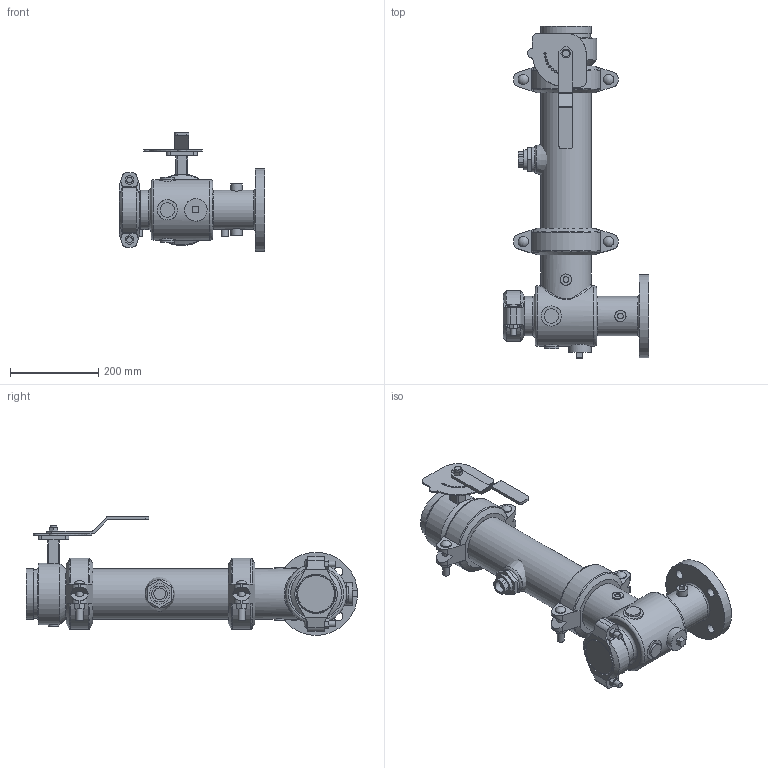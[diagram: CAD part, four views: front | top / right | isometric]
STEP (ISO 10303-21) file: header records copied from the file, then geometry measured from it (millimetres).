
FILE_DESCRIPTION(/* description */ ('VIC SVI PUMP DROP HORZ S/391 (OGSxFLG)','CAx-IF Rec.Pracs.---Representation and Presentation of Product Manufacturing Information (PMI)---4.0---2014-10-13'),/* implementation_level */ '2;1');
FILE_NAME(/* name */ 'C:\Users\kkamble\AppData\Roaming\Autodesk\ApplicationPlugins\Back Up\Victaulic_PN10_Series 391 (OGSxFLG)\Victaulic_PN10_Series 391 (OGSxFLG)_04.0x02.5 (76.1) (100x65).stp',/* time_stamp */ '2020-11-26T23:43:32+05:00',/* author */ ('kkamble'),/* organization */ ('Victaulic'),/* preprocessor_version */ 'ST-DEVELOPER v17.2',/* originating_system */ 'Autodesk Inventor 2019',/* authorisation */ '');
FILE_SCHEMA (('AP242_MANAGED_MODEL_BASED_3D_ENGINEERING_MIM_LF { 1 0 10303 442 1 1 4 }'));
Length unit declared in the file: inch
Products named in the file (9): 391-04.0x02.5 (76.1); 731D-04.0x02.5 (76.1); 731D-04.0x02.5 (76.1)_1; 731D-04.0; 07-03.0; PIPE-04.0; 177N-04.0; 761-04.0; 923-04.0x0.75
Assembly tree (9 placements, depth 3):
  391-04.0x02.5 (76.1)
    731D-04.0x02.5 (76.1)
      731D-04.0x02.5 (76.1)_1
      731D-04.0
      07-03.0
    177N-04.0  x2
    PIPE-04.0
    761-04.0
    923-04.0x0.75
Bounding box: 330.2 x 752.09 x 268.99 mm (x, y, z)
Volume: 5632595.8 mm3; surface area: 1039424.1 mm2
Topology: 8 solids, 11 shells, 526 faces, 1366 edges, 921 vertices
Faces by surface type: plane 297, cylinder 189, torus 17, cone 16, sphere 6, bspline 1
Full cylindrical faces by diameter (mm): 4.826 x10, 8.636 x4, 12.7 x4, 13.157 x4, 14.986 x2, 15.875 x4, 21.006 x4, 22.225 x2, 22.86 x1, 23.495 x4, 25.4 x4, 26.67 x1, 33.02 x3, 45.974 x2, 50.8 x1, 55.118 x1, 55.626 x1, 63.5 x1, 65.278 x1, 67.056 x1, 72.898 x1, 82.55 x1, 84.938 x2, 88.9 x6, 96.52 x1, 101.6 x2, 102.26 x2, 110.084 x5, 114.3 x13, 137.16 x1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
Entity records: 15311 total; most frequent: CARTESIAN_POINT 3381, DIRECTION 2452, ORIENTED_EDGE 2252, EDGE_CURVE 1126, AXIS2_PLACEMENT_3D 933, VERTEX_POINT 762, LINE 586, VECTOR 586
